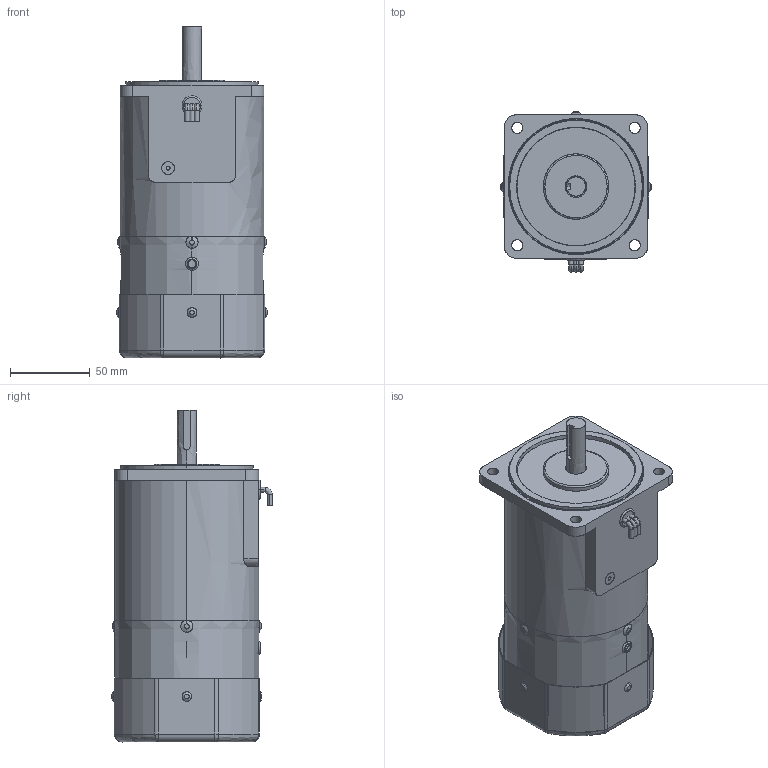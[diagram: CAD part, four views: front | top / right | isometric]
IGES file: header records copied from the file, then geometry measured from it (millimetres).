
Start section: SolidWorks IGES file using analytic representation for surfaces
Bounding box: 94 x 100.5 x 208 mm (x, y, z)
Surface area: 170719 mm2 (no closed solid volume)
Topology: 0 solids, 0 shells, 281 faces, 6048 edges, 6032 vertices
Faces by surface type: revolution 156, bspline 125
